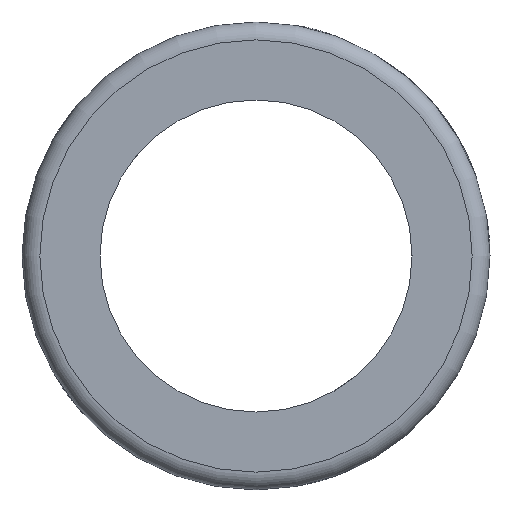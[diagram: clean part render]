
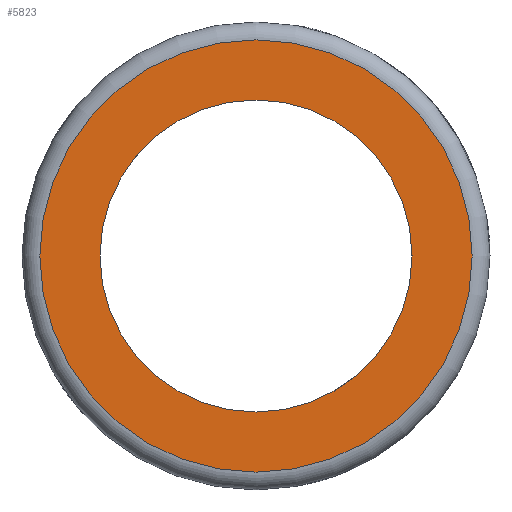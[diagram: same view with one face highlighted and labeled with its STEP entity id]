
A CAD part, left-side view. The second image highlights one B-rep face of the part: STEP entity #5823.
In plain terms, the highlighted planar face has unit normal (-1, 0, 0).
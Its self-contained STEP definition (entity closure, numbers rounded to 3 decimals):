
#121=PLANE('',#6268);
#1807=ORIENTED_EDGE('',*,*,#3570,.T.);
#1808=ORIENTED_EDGE('',*,*,#3555,.T.);
#3555=EDGE_CURVE('',#4436,#4436,#4828,.T.);
#3570=EDGE_CURVE('',#4451,#4451,#4831,.F.);
#4436=VERTEX_POINT('',#9053);
#4451=VERTEX_POINT('',#9109);
#4828=CIRCLE('',#6264,7.);
#4831=CIRCLE('',#6269,9.7);
#4972=EDGE_LOOP('',(#1807));
#4973=EDGE_LOOP('',(#1808));
#5391=FACE_BOUND('',#4972,.T.);
#5392=FACE_BOUND('',#4973,.T.);
#5823=ADVANCED_FACE('',(#5391,#5392),#121,.F.);
#6264=AXIS2_PLACEMENT_3D('',#9052,#6872,#6873);
#6268=AXIS2_PLACEMENT_3D('',#9107,#6886,#6887);
#6269=AXIS2_PLACEMENT_3D('',#9108,#6888,#6889);
#6872=DIRECTION('',(1.,0.,0.));
#6873=DIRECTION('',(0.,0.342,-0.94));
#6886=DIRECTION('',(1.,0.,0.));
#6887=DIRECTION('',(0.,0.342,-0.94));
#6888=DIRECTION('',(1.,0.,0.));
#6889=DIRECTION('',(0.,0.342,-0.94));
#9052=CARTESIAN_POINT('',(-14.,0.,0.));
#9053=CARTESIAN_POINT('',(-14.,2.394,-6.578));
#9107=CARTESIAN_POINT('',(-14.,0.,0.));
#9108=CARTESIAN_POINT('',(-14.,0.,0.));
#9109=CARTESIAN_POINT('',(-14.,3.318,-9.115));
